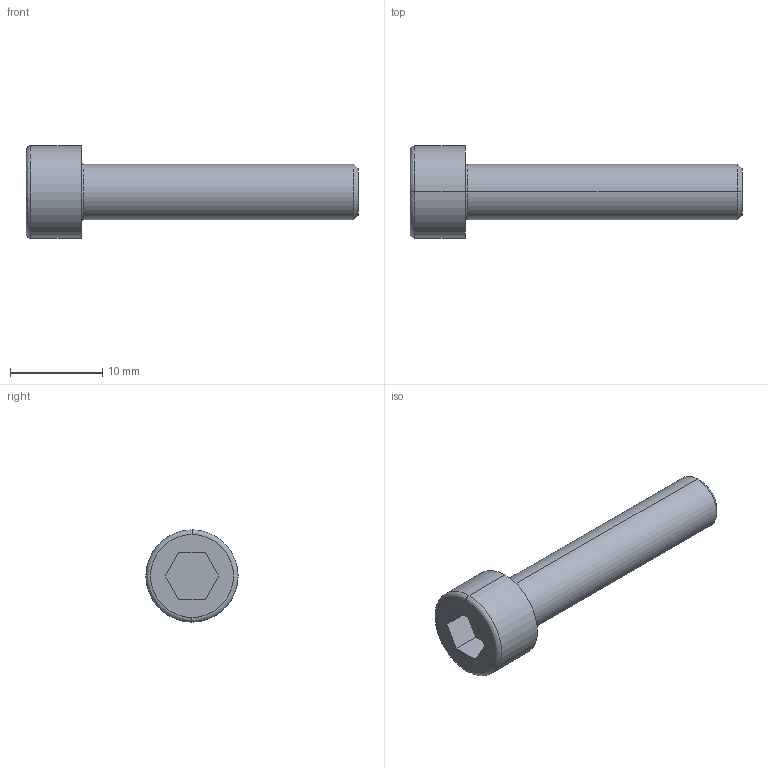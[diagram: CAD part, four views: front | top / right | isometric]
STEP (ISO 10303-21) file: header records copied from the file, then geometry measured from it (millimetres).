
FILE_DESCRIPTION (( 'STEP AP203' ), '1' );
FILE_NAME ('033 Vis CHc M6x30.STEP', '2021-10-27T18:28:19', ( '' ), ( '' ), 'SwSTEP 2.0', 'SolidWorks 2019', '' );
FILE_SCHEMA (( 'CONFIG_CONTROL_DESIGN' ));
Length unit declared in the file: millimetre
Products named in the file (1): 033 Vis CHc M6x30
Bounding box: 36 x 10 x 10 mm (x, y, z)
Volume: 1235.2 mm3; surface area: 1580.8 mm2
Topology: 1 solids, 1 shells, 27 faces, 59 edges, 36 vertices
Faces by surface type: plane 13, cylinder 8, bspline 4, cone 2
Entity records: 859 total; most frequent: CARTESIAN_POINT 183, DIRECTION 132, ORIENTED_EDGE 118, EDGE_CURVE 59, AXIS2_PLACEMENT_3D 49, VERTEX_POINT 36, LINE 34, VECTOR 34
